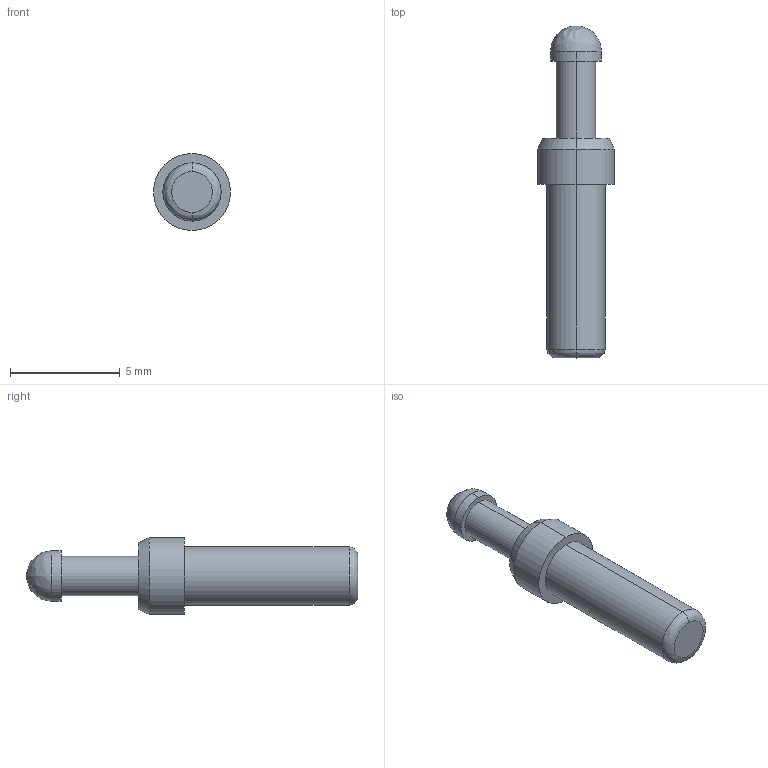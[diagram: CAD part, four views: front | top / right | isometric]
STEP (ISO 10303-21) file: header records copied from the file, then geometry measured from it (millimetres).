
FILE_DESCRIPTION (( 'STEP AP214' ), '1' );
FILE_NAME ('PC8D.STEP', '2025-07-15T08:16:26', ( '' ), ( '' ), 'SwSTEP 2.0', 'SolidWorks 2024', '' );
FILE_SCHEMA (( 'AUTOMOTIVE_DESIGN' ));
Length unit declared in the file: millimetre
Products named in the file (1): PC8D
Bounding box: 3.5 x 15.1 x 3.5 mm (x, y, z)
Volume: 76.9 mm3; surface area: 134.8 mm2
Topology: 1 solids, 1 shells, 17 faces, 36 edges, 22 vertices
Faces by surface type: cylinder 8, plane 4, bspline 3, cone 2
Entity records: 697 total; most frequent: CARTESIAN_POINT 125, DIRECTION 84, ORIENTED_EDGE 68, AXIS2_PLACEMENT_3D 37, EDGE_CURVE 34, VERTEX_POINT 22, CIRCLE 22, EDGE_LOOP 20
